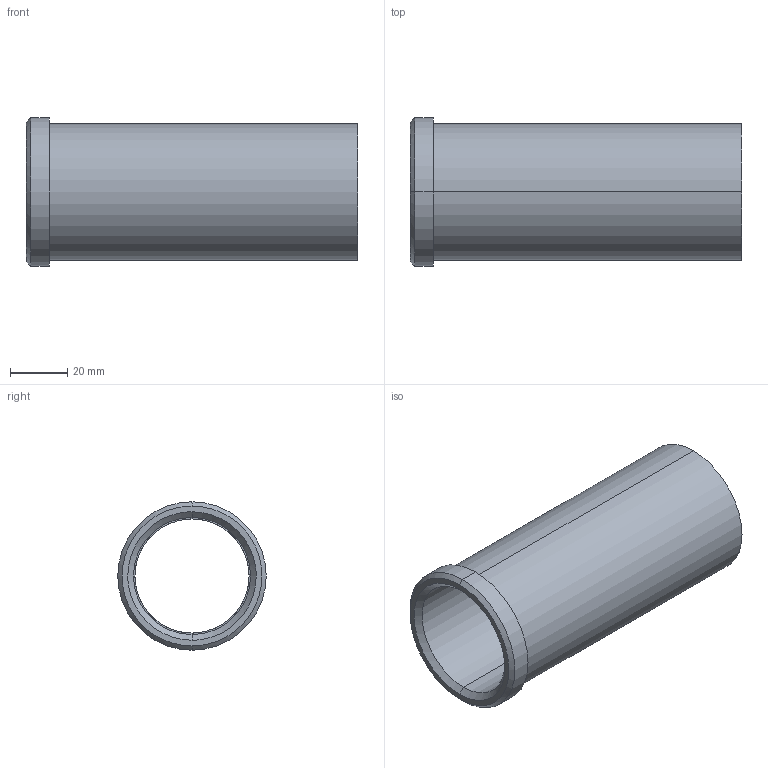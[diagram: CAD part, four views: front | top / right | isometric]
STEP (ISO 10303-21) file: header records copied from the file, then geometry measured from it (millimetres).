
FILE_DESCRIPTION(('CATIA V5 STEP Exchange'),'2;1');
FILE_NAME('C:\Users\Utente\Desktop\IO LAVORO\3D X SITO CF\X SITO\PLASTICA\353\353-40X116.stp','2021-05-13T18:20:55+00:00',('none'),('none'),'CATIA Version 5 Release 20 GA (IN-10)','CATIA V5 STEP AP203','none');
FILE_SCHEMA(('CONFIG_CONTROL_DESIGN'));
Length unit declared in the file: millimetre
Products named in the file (1): 353-40X116
Bounding box: 116 x 52 x 52 mm (x, y, z)
Volume: 63805.3 mm3; surface area: 33618.9 mm2
Topology: 1 solids, 1 shells, 18 faces, 58 edges, 44 vertices
Faces by surface type: cylinder 8, plane 4, cone 4, torus 2
Entity records: 840 total; most frequent: CARTESIAN_POINT 289, ORIENTED_EDGE 116, DIRECTION 82, EDGE_CURVE 58, AXIS2_PLACEMENT_3D 53, VERTEX_POINT 44, CIRCLE 34, EDGE_LOOP 22
